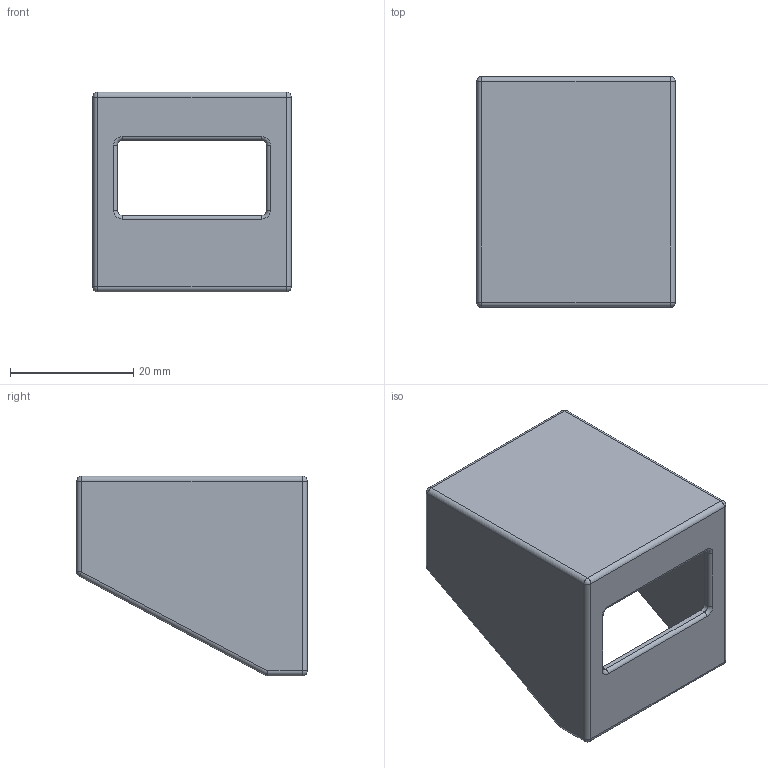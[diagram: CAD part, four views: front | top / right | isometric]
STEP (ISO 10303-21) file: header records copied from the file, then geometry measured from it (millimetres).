
FILE_DESCRIPTION(/* description */ (''),/* implementation_level */ '2;1');
FILE_NAME(/* name */ 'Body-no logo.step',/* time_stamp */ '2025-11-28T14:50:29+01:00',/* author */ (''),/* organization */ (''),/* preprocessor_version */ 'ST-DEVELOPER v20.1',/* originating_system */ 'Autodesk Translation Framework v14.21.0.0',/* authorisation */ '');
FILE_SCHEMA (('AUTOMOTIVE_DESIGN { 1 0 10303 214 3 1 1 }'));
Length unit declared in the file: millimetre
Products named in the file (1): Body-no logo
Bounding box: 32.2 x 37.4 x 32.4 mm (x, y, z)
Volume: 7373 mm3; surface area: 7836.5 mm2
Topology: 1 solids, 1 shells, 88 faces, 194 edges, 112 vertices
Faces by surface type: cylinder 33, plane 33, sphere 10, cone 8, torus 4
Full cylindrical faces by diameter (mm): 1 x4, 1.8 x4
Entity records: 2413 total; most frequent: DIRECTION 446, CARTESIAN_POINT 395, ORIENTED_EDGE 388, EDGE_CURVE 194, AXIS2_PLACEMENT_3D 163, LINE 120, VECTOR 120, VERTEX_POINT 112
